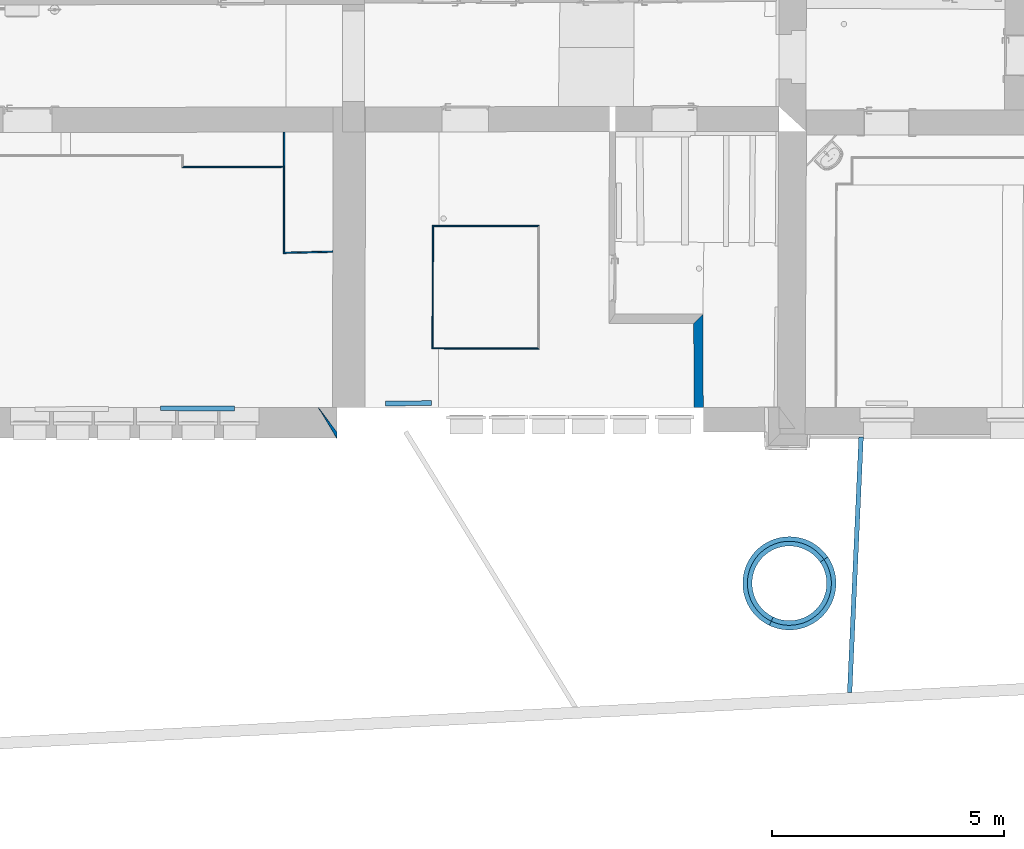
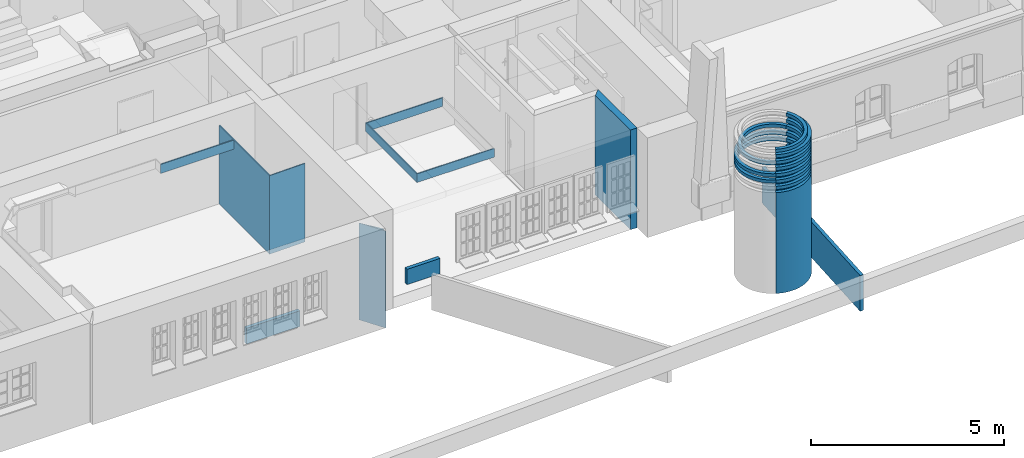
# One storey, part 37 of 196: 28 walls.
"""IFC2X3 building model written with IfcOpenShell, lengths in metres."""

import ifcopenshell
import ifcopenshell.guid

model = None  # the IFC model being written
_history = None  # IfcOwnerHistory: only IFC2X3 demands one
_inside = {}  # id of a spatial element -> (the spatial element, [elements in it])
_under = {}  # id of a project, library or spatial element -> (it, [spatial elements below it])
_declared = {}  # id of a project -> (the project, [libraries it declares])
_typed = {}  # id of a type object -> (the type object, [elements of that type])
_made_of = {}  # id of a material, layer set ... -> (it, [elements and type objects made of it])


def new_model(schema):
    """Start an empty IFC model of exactly this schema.

    Asked for "IFC4X3", IfcOpenShell would pick the latest addendum, in which some entities
    have other attributes; the version numbers below select the first issue.
    IFC2X3 requires an IfcOwnerHistory on every rooted entity: one is made here for all.
    """
    global model, _history
    if schema == "IFC4X3":
        model = ifcopenshell.file(schema_version=(4, 3, 0, 0))
    else:
        model = ifcopenshell.file(schema=schema)
    _inside.clear()
    _under.clear()
    _declared.clear()
    _typed.clear()
    _made_of.clear()
    _history = None
    if model.schema == "IFC2X3":
        org = make("IfcOrganization", Name="unknown")
        user = make(
            "IfcPersonAndOrganization",
            ThePerson=make("IfcPerson", FamilyName="unknown"),
            TheOrganization=org,
        )
        app = make(
            "IfcApplication",
            ApplicationDeveloper=org,
            Version="unknown",
            ApplicationFullName="unknown",
            ApplicationIdentifier="unknown",
        )
        _history = make(
            "IfcOwnerHistory",
            OwningUser=user,
            OwningApplication=app,
            ChangeAction="ADDED",
            CreationDate=0,
        )
    return model


def make(cls, **values):
    """One entity of the class cls with the attributes given. An attribute that is None is left unset."""
    return model.create_entity(
        cls, **{name: value for name, value in values.items() if value is not None}
    )


def entity(cls, *values):
    """Any entity or typed value of the class cls, its attributes in the order of the schema. None: left unset."""
    e = model.create_entity(cls)
    for i, value in enumerate(values):
        if value is not None:
            e[i] = value
    return e


def rooted(cls, **values):
    """An entity with a GlobalId (a new one), such as an element, a storey or a relation."""
    return make(cls, GlobalId=ifcopenshell.guid.new(), OwnerHistory=_history, **values)


def si_unit(unit_type, name, prefix=None):
    """IfcSIUnit, for example si_unit("LENGTHUNIT", "METRE", prefix="MILLI")."""
    return make("IfcSIUnit", UnitType=unit_type, Prefix=prefix, Name=name)


def converted_unit(unit_type, name, factor, base, dimensions=None, offset=None):
    """IfcConversionBasedUnit, such as the inch: factor (a typed value) times the base unit."""
    return make(
        "IfcConversionBasedUnit"
        if offset is None
        else "IfcConversionBasedUnitWithOffset",
        ConversionOffset=offset,
        Dimensions=None
        if dimensions is None
        else entity("IfcDimensionalExponents", *dimensions),
        UnitType=unit_type,
        Name=name,
        ConversionFactor=make(
            "IfcMeasureWithUnit", ValueComponent=factor, UnitComponent=base
        ),
    )


def derived_unit(unit_type, elements):
    """IfcDerivedUnit: a product of units, each with its exponent."""
    return make(
        "IfcDerivedUnit",
        Elements=[
            make("IfcDerivedUnitElement", Unit=unit, Exponent=power)
            for unit, power in elements
        ],
        UnitType=unit_type,
    )


def money_unit(currency):
    """IfcMonetaryUnit."""
    return make("IfcMonetaryUnit", Currency=currency)


def assignment(units):
    """IfcUnitAssignment: the units of a project."""
    return None if units is None else make("IfcUnitAssignment", Units=units)


def point(xyz):
    """IfcCartesianPoint."""
    return None if xyz is None else make("IfcCartesianPoint", Coordinates=xyz)


def direction(xyz):
    """IfcDirection."""
    return None if xyz is None else make("IfcDirection", DirectionRatios=xyz)


def frame(location, z_axis=None, x_axis=None):
    """IfcAxis2Placement3D, a coordinate frame: its origin and axes. An axis left out is left unset."""
    return make(
        "IfcAxis2Placement3D",
        Location=point(location),
        Axis=direction(z_axis),
        RefDirection=direction(x_axis),
    )


def frame_2d(location, x_axis=None):
    """IfcAxis2Placement2D, a coordinate frame in the plane: its origin and x axis."""
    return make(
        "IfcAxis2Placement2D", Location=point(location), RefDirection=direction(x_axis)
    )


def origin_with_axes():
    """The frame at (0, 0, 0) with the z axis (0, 0, 1) and the x axis (1, 0, 0) written out."""
    return frame((0.0, 0.0, 0.0), z_axis=(0.0, 0.0, 1.0), x_axis=(1.0, 0.0, 0.0))


def place(relative_to, where):
    """IfcLocalPlacement: puts the frame where relative to a parent placement (None: the world)."""
    return make(
        "IfcLocalPlacement", PlacementRelTo=relative_to, RelativePlacement=where
    )


def context(
    kind, dimensions, precision=None, world=None, true_north=None, identifier=None
):
    """IfcGeometricRepresentationContext, for example the 3D "Model" context."""
    return make(
        "IfcGeometricRepresentationContext",
        ContextIdentifier=identifier,
        ContextType=kind,
        CoordinateSpaceDimension=dimensions,
        Precision=precision,
        WorldCoordinateSystem=world,
        TrueNorth=true_north,
    )


def subcontext(parent, identifier, kind, view, scale=None):
    """IfcGeometricRepresentationSubContext, for example "Body" below "Model"."""
    return make(
        "IfcGeometricRepresentationSubContext",
        ContextIdentifier=identifier,
        ContextType=kind,
        ParentContext=parent,
        TargetScale=scale,
        TargetView=view,
    )


def project(units=None, contexts=None):
    """IfcProject with its units and contexts."""
    return rooted(
        "IfcProject",
        Name="project",
        RepresentationContexts=contexts,
        UnitsInContext=assignment(units),
    )


def spatial(cls, under=None, at=None, **own):
    """A site, building, storey or space (cls), placed at a placement, below another one or the project."""
    s = rooted(cls, ObjectPlacement=at, **own)
    if under is not None:
        _under.setdefault(under.id(), (under, []))[1].append(s)
    return s


def polyline(points):
    """IfcPolyline through the points."""
    return make("IfcPolyline", Points=[point(p) for p in points])


def circle_curve(where, radius):
    """IfcCircle in the frame where."""
    return make("IfcCircle", Position=where, Radius=radius)


def parameter(value):
    """IfcParameterValue: where a trimmed curve begins or ends, as a parameter of its basis curve."""
    return model.create_entity("IfcParameterValue", value)


def trimmed(basis, trim1, trim2, sense, master):
    """IfcTrimmedCurve: the piece of a basis curve between two trims."""
    return make(
        "IfcTrimmedCurve",
        BasisCurve=basis,
        Trim1=trim1,
        Trim2=trim2,
        SenseAgreement=sense,
        MasterRepresentation=master,
    )


def segment(curve, same_sense, transition):
    """IfcCompositeCurveSegment."""
    return make(
        "IfcCompositeCurveSegment",
        Transition=transition,
        SameSense=same_sense,
        ParentCurve=curve,
    )


def composite_curve(segments, self_intersect=None):
    """IfcCompositeCurve: segments joined end to end."""
    return make("IfcCompositeCurve", Segments=segments, SelfIntersect=self_intersect)


def outline(outer, holes=None, kind="AREA"):
    """IfcArbitraryClosedProfileDef: a profile drawn as a closed curve; with holes, ...WithVoids."""
    if holes is None:
        return make("IfcArbitraryClosedProfileDef", ProfileType=kind, OuterCurve=outer)
    return make(
        "IfcArbitraryProfileDefWithVoids",
        ProfileType=kind,
        OuterCurve=outer,
        InnerCurves=holes,
    )


def extrude(swept, where, along, depth):
    """IfcExtrudedAreaSolid: the profile swept, set in the frame where, extruded along a direction by depth."""
    return make(
        "IfcExtrudedAreaSolid",
        SweptArea=swept,
        Position=where,
        ExtrudedDirection=direction(along),
        Depth=depth,
    )


def shape(context_of_items, identifier, shape_type, items):
    """IfcShapeRepresentation: the items that make up one representation, for example the "Body"."""
    return make(
        "IfcShapeRepresentation",
        ContextOfItems=context_of_items,
        RepresentationIdentifier=identifier,
        RepresentationType=shape_type,
        Items=items,
    )


def material(Name=None, Category=None):
    """IfcMaterial."""
    return make("IfcMaterial", Name=Name, Category=Category)


def layer(
    of_material, thickness, ventilated=None, Name=None, Category=None, Priority=None
):
    """IfcMaterialLayer: one layer of a wall or slab, of a material (None: an air gap)."""
    return make(
        "IfcMaterialLayer",
        Material=of_material,
        LayerThickness=thickness,
        IsVentilated=ventilated,
        Name=Name,
        Category=Category,
        Priority=Priority,
    )


def layer_set(layers, Name=None):
    """IfcMaterialLayerSet."""
    return make("IfcMaterialLayerSet", MaterialLayers=layers, LayerSetName=Name)


def layer_usage(for_layer_set, set_direction, sense, offset, extent=None):
    """IfcMaterialLayerSetUsage: how a layer set lies in its element."""
    return make(
        "IfcMaterialLayerSetUsage",
        ForLayerSet=for_layer_set,
        LayerSetDirection=set_direction,
        DirectionSense=sense,
        OffsetFromReferenceLine=offset,
        ReferenceExtent=extent,
    )


def made_of(thing, what):
    """Note that an element or type object is made of a material, layer set ...; save() writes the relation."""
    if what is not None:
        _made_of.setdefault(what.id(), (what, []))[1].append(thing)
    return thing


def type_object(cls, material=None, **own):
    """A type object (cls), such as IfcWallType, which elements share."""
    return made_of(rooted(cls, **own), material)


def element(
    cls,
    number,
    at=None,
    inside=None,
    cuts=None,
    type_object=None,
    material=None,
    context=None,
    identifier="Body",
    shape_type=None,
    held_by="IfcProductDefinitionShape",
    body=None,
    shapes=None,
    **own,
):
    """One element of the class cls, such as IfcWall. Its Tag is "e" and its number.

    at: its placement. inside: the storey or other place that contains it. cuts: it is an
    opening in that element (IfcRelVoidsElement). A single representation is given by context,
    identifier, shape_type and body (its items); several are given by shapes. held_by: the class
    of the entity that holds the representations. save() writes the other relations.
    """
    e = rooted(cls, Tag="e%d" % number, ObjectPlacement=at, **own)
    if body is not None:
        shapes = [shape(context, identifier, shape_type, body)]
    if shapes is not None:
        e.Representation = make(held_by, Representations=shapes)
    if inside is not None:
        _inside.setdefault(inside.id(), (inside, []))[1].append(e)
    if cuts is not None:
        rooted(
            "IfcRelVoidsElement", RelatingBuildingElement=cuts, RelatedOpeningElement=e
        )
    if type_object is not None:
        _typed.setdefault(type_object.id(), (type_object, []))[1].append(e)
    return made_of(e, material)


def aggregate(whole, parts):
    """IfcRelAggregates: a whole, such as a stair, and the parts it consists of."""
    return rooted("IfcRelAggregates", RelatingObject=whole, RelatedObjects=parts)


def save(model, path):
    """Write the relations noted so far, then the file.

    IfcRelAggregates (storeys below a building ...), IfcRelContainedInSpatialStructure (elements
    in a storey), IfcRelDefinesByType, IfcRelAssociatesMaterial and IfcRelDeclares: one each for
    every whole, place, type object, material and project.
    """
    for whole, parts in _under.values():
        aggregate(whole, parts)
    for where, things in _inside.values():
        rooted(
            "IfcRelContainedInSpatialStructure",
            RelatedElements=things,
            RelatingStructure=where,
        )
    for kind, things in _typed.values():
        rooted("IfcRelDefinesByType", RelatedObjects=things, RelatingType=kind)
    for what, things in _made_of.values():
        rooted("IfcRelAssociatesMaterial", RelatedObjects=things, RelatingMaterial=what)
    for by, libraries in _declared.values():
        rooted("IfcRelDeclares", RelatingContext=by, RelatedDefinitions=libraries)
    model.write(path)


model = new_model("IFC2X3")

# Units and contexts
model_context = context("Model", 3, precision=1e-05, world=origin_with_axes(), true_north=direction((0.0, 1.0)))
body_context = subcontext(model_context, "Body", "Model", "MODEL_VIEW")
ifc_project = project(units=[si_unit("LENGTHUNIT", "METRE"), si_unit("AREAUNIT", "SQUARE_METRE"), si_unit("VOLUMEUNIT", "CUBIC_METRE"), converted_unit("PLANEANGLEUNIT", "DEGREE", entity("IfcPlaneAngleMeasure", 0.0174532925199), si_unit("PLANEANGLEUNIT", "RADIAN"), dimensions=[0, 0, 0, 0, 0, 0, 0]), money_unit("EUR"), converted_unit("TIMEUNIT", "Year", entity("IfcTimeMeasure", 31556926.0), si_unit("TIMEUNIT", "SECOND"), dimensions=[0, 0, 1, 0, 0, 0, 0]), si_unit("MASSUNIT", "GRAM", prefix="KILO"), si_unit("THERMODYNAMICTEMPERATUREUNIT", "DEGREE_CELSIUS"), si_unit("LUMINOUSINTENSITYUNIT", "LUMEN"), si_unit("ENERGYUNIT", "JOULE", prefix="MEGA"), derived_unit("THERMALCONDUCTANCEUNIT", [(si_unit("POWERUNIT", "WATT"), 1), (si_unit("LENGTHUNIT", "METRE"), -1), (si_unit("THERMODYNAMICTEMPERATUREUNIT", "KELVIN"), -1)]), derived_unit("SPECIFICHEATCAPACITYUNIT", [(si_unit("ENERGYUNIT", "JOULE"), 1), (si_unit("MASSUNIT", "GRAM", prefix="KILO"), -1), (si_unit("THERMODYNAMICTEMPERATUREUNIT", "KELVIN"), -1)]), derived_unit("MASSDENSITYUNIT", [(si_unit("MASSUNIT", "GRAM", prefix="KILO"), 1), (si_unit("VOLUMEUNIT", "CUBIC_METRE"), -1)])], contexts=[model_context])

# Site, building, storey
site_placement = place(None, origin_with_axes())
site = spatial("IfcSite", under=ifc_project, at=site_placement, Name="Gelände", CompositionType="ELEMENT")
building_placement = place(site_placement, origin_with_axes())
building = spatial("IfcBuilding", under=site, at=building_placement, Name="Gebäude", CompositionType="ELEMENT")
storey_placement = place(building_placement, frame((0.0, 0.0, -3.0), z_axis=(0.0, 0.0, 1.0), x_axis=(1.0, 0.0, 0.0)))
storey = spatial("IfcBuildingStorey", under=building, at=storey_placement, Name="KELLERGESCHOSS", CompositionType="ELEMENT", Elevation=-3.0)

# Walls
ifc_material_1 = material(Name="05_ALLGEMEIN - TRAGENDE BAUTEILE")
ifc_layer_1 = layer(ifc_material_1, 0.4, ventilated="UNKNOWN")
ifc_layer_set_1 = layer_set([ifc_layer_1], Name="05_ALLGEMEIN - TRAGENDE BAUTEILE 0.4")
ifc_layer_usage_1 = layer_usage(ifc_layer_set_1, "AXIS2", "NEGATIVE", 0.4)
wall_type_1 = type_object("IfcWallType", Name="05_ALLGEMEIN - TRAGENDE BAUTEILE 400", PredefinedType="ELEMENTEDWALL")
wall_1_placement = place(storey_placement, frame((12.4270314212, 9.80789701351, -0.36), z_axis=(0.0, 0.0, 1.0), x_axis=(0.000174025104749, 0.999999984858, 0.0)))
element("IfcWallStandardCase", 1, at=wall_1_placement, inside=storey, type_object=wall_type_1, material=ifc_layer_usage_1, Name="Wand-033", ObjectType="ELEMENTEDWALL", context=body_context, shape_type="SweptSolid", body=[
    extrude(outline(polyline([(0.0, 0.0), (0.130379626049, 0.0), (0.660052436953, 0.4), (0.66, 0.4), (0.0, 0.0)])), origin_with_axes(), (0.0, 0.0, 1.0), 3.065),
])
ifc_layer_2 = layer(ifc_material_1, 0.1, ventilated="UNKNOWN")
ifc_layer_set_2 = layer_set([ifc_layer_2], Name="05_ALLGEMEIN - TRAGENDE BAUTEILE 0.1")
ifc_layer_usage_2 = layer_usage(ifc_layer_set_2, "AXIS2", "NEGATIVE", 0.1)
wall_type_2 = type_object("IfcWallType", Name="05_ALLGEMEIN - TRAGENDE BAUTEILE 100", PredefinedType="ELEMENTEDWALL")
wall_2_placement = place(storey_placement, frame((21.7624079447, 5.76562607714, 3.19957866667), z_axis=(0.0, 0.0, 1.0), x_axis=(0.902607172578, -0.430465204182, 0.0)))
element("IfcWallStandardCase", 2, at=wall_2_placement, inside=storey, type_object=wall_type_2, material=ifc_layer_usage_2, Name="Wand-032", ObjectType="ELEMENTEDWALL", context=body_context, shape_type="SweptSolid", body=[
    extrude(outline(composite_curve([segment(trimmed(circle_curve(frame_2d((0.0, 1.00607070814), x_axis=(0.0, -1.0)), 1.00607070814), [point((0.0, 0.0)), parameter(0.0)], [point((0.503020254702, 1.87736221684)), parameter(150.000992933)], True, "CARTESIAN"), True, "CONTINUOUS"), segment(polyline([(0.503020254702, 1.87736221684), (0.453021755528, 1.79075880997)]), True, "CONTINUOUS"), segment(trimmed(circle_curve(frame_2d((0.0, 1.00607070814), x_axis=(0.0, -1.0)), 0.906070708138), [point((0.453021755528, 1.79075880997)), parameter(150.000992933)], [point((0.0, 0.1)), parameter(0.0)], False, "CARTESIAN"), True, "CONTINUOUS"), segment(polyline([(0.0, 0.1), (0.0, 0.0)]), True, "CONTINUOUS")], self_intersect=False)), origin_with_axes(), (0.0, 0.0, 1.0), 0.1),
])
ifc_layer_usage_3 = layer_usage(ifc_layer_set_2, "AXIS2", "NEGATIVE", 0.1)
wall_3_placement = place(storey_placement, frame((21.7624079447, 5.76562607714, -0.0866233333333), z_axis=(0.0, 0.0, 1.0), x_axis=(0.902607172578, -0.430465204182, 0.0)))
element("IfcWallStandardCase", 3, at=wall_3_placement, inside=storey, type_object=wall_type_2, material=ifc_layer_usage_3, Name="Wand-032", ObjectType="ELEMENTEDWALL", context=body_context, shape_type="SweptSolid", body=[
    extrude(outline(composite_curve([segment(trimmed(circle_curve(frame_2d((0.0, 1.00607070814), x_axis=(0.0, -1.0)), 1.00607070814), [point((0.0, 0.0)), parameter(0.0)], [point((0.503020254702, 1.87736221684)), parameter(150.000992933)], True, "CARTESIAN"), True, "CONTINUOUS"), segment(polyline([(0.503020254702, 1.87736221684), (0.453021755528, 1.79075880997)]), True, "CONTINUOUS"), segment(trimmed(circle_curve(frame_2d((0.0, 1.00607070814), x_axis=(0.0, -1.0)), 0.906070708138), [point((0.453021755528, 1.79075880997)), parameter(150.000992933)], [point((0.0, 0.1)), parameter(0.0)], False, "CARTESIAN"), True, "CONTINUOUS"), segment(polyline([(0.0, 0.1), (0.0, 0.0)]), True, "CONTINUOUS")], self_intersect=False)), origin_with_axes(), (0.0, 0.0, 1.0), 3.186202),
])
ifc_layer_usage_4 = layer_usage(ifc_layer_set_2, "AXIS2", "NEGATIVE", 0.1)
wall_4_placement = place(storey_placement, frame((21.7624079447, 5.76562607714, 4.19957866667), z_axis=(0.0, 0.0, 1.0), x_axis=(0.902607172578, -0.430465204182, 0.0)))
element("IfcWallStandardCase", 4, at=wall_4_placement, inside=storey, type_object=wall_type_2, material=ifc_layer_usage_4, Name="Wand-032", ObjectType="ELEMENTEDWALL", context=body_context, shape_type="SweptSolid", body=[
    extrude(outline(composite_curve([segment(trimmed(circle_curve(frame_2d((0.0, 1.00607070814), x_axis=(0.0, -1.0)), 1.00607070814), [point((0.0, 0.0)), parameter(0.0)], [point((0.503020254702, 1.87736221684)), parameter(150.000992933)], True, "CARTESIAN"), True, "CONTINUOUS"), segment(polyline([(0.503020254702, 1.87736221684), (0.453021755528, 1.79075880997)]), True, "CONTINUOUS"), segment(trimmed(circle_curve(frame_2d((0.0, 1.00607070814), x_axis=(0.0, -1.0)), 0.906070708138), [point((0.453021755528, 1.79075880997)), parameter(150.000992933)], [point((0.0, 0.1)), parameter(0.0)], False, "CARTESIAN"), True, "CONTINUOUS"), segment(polyline([(0.0, 0.1), (0.0, 0.0)]), True, "CONTINUOUS")], self_intersect=False)), origin_with_axes(), (0.0, 0.0, 1.0), 0.1),
])
ifc_layer_usage_5 = layer_usage(ifc_layer_set_2, "AXIS2", "NEGATIVE", 0.1)
wall_5_placement = place(storey_placement, frame((21.7624079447, 5.76562607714, 3.59957866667), z_axis=(0.0, 0.0, 1.0), x_axis=(0.902607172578, -0.430465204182, 0.0)))
element("IfcWallStandardCase", 5, at=wall_5_placement, inside=storey, type_object=wall_type_2, material=ifc_layer_usage_5, Name="Wand-032", ObjectType="ELEMENTEDWALL", context=body_context, shape_type="SweptSolid", body=[
    extrude(outline(composite_curve([segment(trimmed(circle_curve(frame_2d((0.0, 1.00607070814), x_axis=(0.0, -1.0)), 1.00607070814), [point((0.0, 0.0)), parameter(0.0)], [point((0.503020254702, 1.87736221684)), parameter(150.000992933)], True, "CARTESIAN"), True, "CONTINUOUS"), segment(polyline([(0.503020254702, 1.87736221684), (0.453021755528, 1.79075880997)]), True, "CONTINUOUS"), segment(trimmed(circle_curve(frame_2d((0.0, 1.00607070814), x_axis=(0.0, -1.0)), 0.906070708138), [point((0.453021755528, 1.79075880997)), parameter(150.000992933)], [point((0.0, 0.1)), parameter(0.0)], False, "CARTESIAN"), True, "CONTINUOUS"), segment(polyline([(0.0, 0.1), (0.0, 0.0)]), True, "CONTINUOUS")], self_intersect=False)), origin_with_axes(), (0.0, 0.0, 1.0), 0.1),
])
ifc_layer_usage_6 = layer_usage(ifc_layer_set_2, "AXIS2", "NEGATIVE", 0.1)
wall_6_placement = place(storey_placement, frame((21.7624079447, 5.76562607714, 3.39957866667), z_axis=(0.0, 0.0, 1.0), x_axis=(0.902607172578, -0.430465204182, 0.0)))
element("IfcWallStandardCase", 6, at=wall_6_placement, inside=storey, type_object=wall_type_2, material=ifc_layer_usage_6, Name="Wand-032", ObjectType="ELEMENTEDWALL", context=body_context, shape_type="SweptSolid", body=[
    extrude(outline(composite_curve([segment(trimmed(circle_curve(frame_2d((0.0, 1.00607070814), x_axis=(0.0, -1.0)), 1.00607070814), [point((0.0, 0.0)), parameter(0.0)], [point((0.503020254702, 1.87736221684)), parameter(150.000992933)], True, "CARTESIAN"), True, "CONTINUOUS"), segment(polyline([(0.503020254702, 1.87736221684), (0.453021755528, 1.79075880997)]), True, "CONTINUOUS"), segment(trimmed(circle_curve(frame_2d((0.0, 1.00607070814), x_axis=(0.0, -1.0)), 0.906070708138), [point((0.453021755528, 1.79075880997)), parameter(150.000992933)], [point((0.0, 0.1)), parameter(0.0)], False, "CARTESIAN"), True, "CONTINUOUS"), segment(polyline([(0.0, 0.1), (0.0, 0.0)]), True, "CONTINUOUS")], self_intersect=False)), origin_with_axes(), (0.0, 0.0, 1.0), 0.1),
])
ifc_layer_usage_7 = layer_usage(ifc_layer_set_2, "AXIS2", "NEGATIVE", 0.1)
wall_7_placement = place(storey_placement, frame((21.7624079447, 5.76562607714, 3.79957866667), z_axis=(0.0, 0.0, 1.0), x_axis=(0.902607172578, -0.430465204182, 0.0)))
element("IfcWallStandardCase", 7, at=wall_7_placement, inside=storey, type_object=wall_type_2, material=ifc_layer_usage_7, Name="Wand-032", ObjectType="ELEMENTEDWALL", context=body_context, shape_type="SweptSolid", body=[
    extrude(outline(composite_curve([segment(trimmed(circle_curve(frame_2d((0.0, 1.00607070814), x_axis=(0.0, -1.0)), 1.00607070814), [point((0.0, 0.0)), parameter(0.0)], [point((0.503020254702, 1.87736221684)), parameter(150.000992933)], True, "CARTESIAN"), True, "CONTINUOUS"), segment(polyline([(0.503020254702, 1.87736221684), (0.453021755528, 1.79075880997)]), True, "CONTINUOUS"), segment(trimmed(circle_curve(frame_2d((0.0, 1.00607070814), x_axis=(0.0, -1.0)), 0.906070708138), [point((0.453021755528, 1.79075880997)), parameter(150.000992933)], [point((0.0, 0.1)), parameter(0.0)], False, "CARTESIAN"), True, "CONTINUOUS"), segment(polyline([(0.0, 0.1), (0.0, 0.0)]), True, "CONTINUOUS")], self_intersect=False)), origin_with_axes(), (0.0, 0.0, 1.0), 0.1),
])
ifc_layer_usage_8 = layer_usage(ifc_layer_set_2, "AXIS2", "NEGATIVE", 0.1)
wall_8_placement = place(storey_placement, frame((23.0245767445, 7.24361396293, 3.39957866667), z_axis=(0.0, 0.0, 1.0), x_axis=(-0.566462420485, 0.824087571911, 0.0)))
element("IfcWallStandardCase", 8, at=wall_8_placement, inside=storey, type_object=wall_type_2, material=ifc_layer_usage_8, Name="Wand-032", ObjectType="ELEMENTEDWALL", context=body_context, shape_type="SweptSolid", body=[
    extrude(outline(composite_curve([segment(trimmed(circle_curve(frame_2d((0.0, 1.00607070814), x_axis=(0.0, -1.0)), 1.00607070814), [point((0.0, 0.0)), parameter(0.0)], [point((-0.503020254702, 1.87736221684)), parameter(209.999007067)], True, "CARTESIAN"), True, "CONTINUOUS"), segment(polyline([(-0.503020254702, 1.87736221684), (-0.453021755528, 1.79075880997)]), True, "CONTINUOUS"), segment(trimmed(circle_curve(frame_2d((0.0, 1.00607070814), x_axis=(0.0, -1.0)), 0.906070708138), [point((-0.453021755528, 1.79075880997)), parameter(209.999007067)], [point((0.0, 0.1)), parameter(0.0)], False, "CARTESIAN"), True, "CONTINUOUS"), segment(polyline([(0.0, 0.1), (0.0, 0.0)]), True, "CONTINUOUS")], self_intersect=False)), origin_with_axes(), (0.0, 0.0, 1.0), 0.1),
])
ifc_layer_usage_9 = layer_usage(ifc_layer_set_2, "AXIS2", "NEGATIVE", 0.1)
wall_9_placement = place(storey_placement, frame((23.0245767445, 7.24361396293, 3.59957866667), z_axis=(0.0, 0.0, 1.0), x_axis=(-0.566462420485, 0.824087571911, 0.0)))
element("IfcWallStandardCase", 9, at=wall_9_placement, inside=storey, type_object=wall_type_2, material=ifc_layer_usage_9, Name="Wand-032", ObjectType="ELEMENTEDWALL", context=body_context, shape_type="SweptSolid", body=[
    extrude(outline(composite_curve([segment(trimmed(circle_curve(frame_2d((0.0, 1.00607070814), x_axis=(0.0, -1.0)), 1.00607070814), [point((0.0, 0.0)), parameter(0.0)], [point((-0.503020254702, 1.87736221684)), parameter(209.999007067)], True, "CARTESIAN"), True, "CONTINUOUS"), segment(polyline([(-0.503020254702, 1.87736221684), (-0.453021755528, 1.79075880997)]), True, "CONTINUOUS"), segment(trimmed(circle_curve(frame_2d((0.0, 1.00607070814), x_axis=(0.0, -1.0)), 0.906070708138), [point((-0.453021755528, 1.79075880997)), parameter(209.999007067)], [point((0.0, 0.1)), parameter(0.0)], False, "CARTESIAN"), True, "CONTINUOUS"), segment(polyline([(0.0, 0.1), (0.0, 0.0)]), True, "CONTINUOUS")], self_intersect=False)), origin_with_axes(), (0.0, 0.0, 1.0), 0.1),
])
ifc_layer_usage_10 = layer_usage(ifc_layer_set_2, "AXIS2", "NEGATIVE", 0.1)
wall_10_placement = place(storey_placement, frame((21.7624079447, 5.76562607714, 3.99957866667), z_axis=(0.0, 0.0, 1.0), x_axis=(0.902607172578, -0.430465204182, 0.0)))
element("IfcWallStandardCase", 10, at=wall_10_placement, inside=storey, type_object=wall_type_2, material=ifc_layer_usage_10, Name="Wand-032", ObjectType="ELEMENTEDWALL", context=body_context, shape_type="SweptSolid", body=[
    extrude(outline(composite_curve([segment(trimmed(circle_curve(frame_2d((0.0, 1.00607070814), x_axis=(0.0, -1.0)), 1.00607070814), [point((0.0, 0.0)), parameter(0.0)], [point((0.503020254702, 1.87736221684)), parameter(150.000992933)], True, "CARTESIAN"), True, "CONTINUOUS"), segment(polyline([(0.503020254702, 1.87736221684), (0.453021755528, 1.79075880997)]), True, "CONTINUOUS"), segment(trimmed(circle_curve(frame_2d((0.0, 1.00607070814), x_axis=(0.0, -1.0)), 0.906070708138), [point((0.453021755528, 1.79075880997)), parameter(150.000992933)], [point((0.0, 0.1)), parameter(0.0)], False, "CARTESIAN"), True, "CONTINUOUS"), segment(polyline([(0.0, 0.1), (0.0, 0.0)]), True, "CONTINUOUS")], self_intersect=False)), origin_with_axes(), (0.0, 0.0, 1.0), 0.1),
])
ifc_layer_usage_11 = layer_usage(ifc_layer_set_2, "AXIS2", "NEGATIVE", 0.1)
wall_11_placement = place(storey_placement, frame((23.5468201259, 4.31946045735, -0.36), z_axis=(0.0, 0.0, 1.0), x_axis=(0.0447773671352, 0.998996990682, 0.0)))
element("IfcWallStandardCase", 11, at=wall_11_placement, inside=storey, type_object=wall_type_2, material=ifc_layer_usage_11, Name="Wand-038", ObjectType="ELEMENTEDWALL", context=body_context, shape_type="SweptSolid", body=[
    extrude(outline(polyline([(0.0, 0.0), (5.51624185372, 0.0), (5.51624185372, 0.1), (-0.00977962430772, 0.1), (0.0, 0.0)])), origin_with_axes(), (0.0, 0.0, 1.0), 1.126109),
])
ifc_material_2 = material(Name="43_Gipskarton")
ifc_layer_3 = layer(ifc_material_2, 0.03, ventilated="UNKNOWN")
ifc_layer_set_3 = layer_set([ifc_layer_3], Name="43_Gipskarton 0.03")
ifc_layer_usage_12 = layer_usage(ifc_layer_set_3, "AXIS2", "NEGATIVE", 0.03)
wall_type_3 = type_object("IfcWallType", Name="43_Gipskarton 30", PredefinedType="ELEMENTEDWALL")
wall_12_placement = place(storey_placement, frame((11.2715041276, 13.7908857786, -0.04), z_axis=(0.0, 0.0, 1.0), x_axis=(0.99970374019, 0.0243399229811, 0.0)))
element("IfcWallStandardCase", 12, at=wall_12_placement, inside=storey, type_object=wall_type_3, material=ifc_layer_usage_12, Name="Wand-032", ObjectType="ELEMENTEDWALL", context=body_context, shape_type="SweptSolid", body=[
    extrude(outline(polyline([(0.0, 0.0), (1.0698679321, 0.0), (1.07067508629, 0.03), (0.0307768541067, 0.03), (0.0, 0.0)])), origin_with_axes(), (0.0, 0.0, 1.0), 2.48),
])
ifc_layer_usage_13 = layer_usage(ifc_layer_set_3, "AXIS2", "NEGATIVE", 0.03)
wall_13_placement = place(storey_placement, frame((11.2753628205, 16.952647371, -0.04), z_axis=(0.0, 0.0, 1.0), x_axis=(-0.0012204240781, -0.999999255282, 0.0)))
element("IfcWallStandardCase", 13, at=wall_13_placement, inside=storey, type_object=wall_type_3, material=ifc_layer_usage_13, Name="Wand-032", ObjectType="ELEMENTEDWALL", context=body_context, shape_type="SweptSolid", body=[
    extrude(outline(polyline([(0.540002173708, 0.0), (3.16176394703, 0.0), (3.13098709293, 0.03), (0.539917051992, 0.03), (0.540002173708, 0.0)])), origin_with_axes(), (0.0, 0.0, 1.0), 2.48),
])
ifc_layer_usage_14 = layer_usage(ifc_layer_set_3, "AXIS2", "NEGATIVE", 0.0)
wall_14_placement = place(storey_placement, frame((11.273771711, 15.6489134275, 2.15545783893), z_axis=(0.0, 0.0, 1.0), x_axis=(-0.999996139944, -0.00277850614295, 0.0)))
element("IfcWallStandardCase", 14, at=wall_14_placement, inside=storey, type_object=wall_type_3, material=ifc_layer_usage_14, Name="Wand-065", ObjectType="ELEMENTEDWALL", context=body_context, shape_type="SweptSolid", body=[
    extrude(outline(polyline([(-0.000119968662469, -0.03), (2.16363057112, -0.03), (2.19380541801, 0.0), (0.0, 0.0), (-0.000119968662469, -0.03)])), origin_with_axes(), (0.0, 0.0, 1.0), 0.284542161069),
])
ifc_layer_usage_15 = layer_usage(ifc_layer_set_3, "AXIS2", "NEGATIVE", 0.03)
wall_15_placement = place(storey_placement, frame((14.4860190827, 14.4047333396, 2.35), z_axis=(0.0, 0.0, 1.0), x_axis=(-0.00204478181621, -0.999997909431, 0.0)))
element("IfcWallStandardCase", 15, at=wall_15_placement, inside=storey, type_object=wall_type_3, material=ifc_layer_usage_15, Name="Wand-075", ObjectType="ELEMENTEDWALL", context=body_context, shape_type="SweptSolid", body=[
    extrude(outline(polyline([(0.0, 0.0), (2.67262783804, 0.0), (2.64265108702, 0.03), (0.0299319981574, 0.03), (0.0, 0.0)])), origin_with_axes(), (0.0, 0.0, 1.0), 0.27),
])
ifc_layer_usage_16 = layer_usage(ifc_layer_set_3, "AXIS2", "NEGATIVE", 0.03)
wall_16_placement = place(storey_placement, frame((14.4805541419, 11.7321110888, 2.35), z_axis=(0.0, 0.0, 1.0), x_axis=(0.999996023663, -0.00282004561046, 0.0)))
element("IfcWallStandardCase", 16, at=wall_16_placement, inside=storey, type_object=wall_type_3, material=ifc_layer_usage_16, Name="Wand-076", ObjectType="ELEMENTEDWALL", context=body_context, shape_type="SweptSolid", body=[
    extrude(outline(polyline([(0.0, 0.0), (2.31661338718, 0.0), (2.28654252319, 0.03), (0.0299767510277, 0.03), (0.0, 0.0)])), origin_with_axes(), (0.0, 0.0, 1.0), 0.27),
])
ifc_layer_usage_17 = layer_usage(ifc_layer_set_3, "AXIS2", "NEGATIVE", 0.03)
wall_17_placement = place(storey_placement, frame((16.7983928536, 14.4052525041, 2.35), z_axis=(0.0, 0.0, 1.0), x_axis=(-0.999999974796, -0.000224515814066, 0.0)))
element("IfcWallStandardCase", 17, at=wall_17_placement, inside=storey, type_object=wall_type_3, material=ifc_layer_usage_17, Name="Wand-078", ObjectType="ELEMENTEDWALL", context=body_context, shape_type="SweptSolid", body=[
    extrude(outline(polyline([(0.0, 0.0), (2.31237382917, 0.0), (2.28244183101, 0.03), (0.0300205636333, 0.03), (0.0, 0.0)])), origin_with_axes(), (0.0, 0.0, 1.0), 0.27),
])
ifc_material_3 = material(Name="01_ALLGEMEIN - BAUTEIL")
ifc_layer_4 = layer(ifc_material_3, 0.105, ventilated="UNKNOWN")
ifc_layer_set_4 = layer_set([ifc_layer_4], Name="01_ALLGEMEIN - BAUTEIL 0.105")
ifc_layer_usage_18 = layer_usage(ifc_layer_set_4, "AXIS2", "NEGATIVE", 0.105)
wall_type_4 = type_object("IfcWallType", Name="01_ALLGEMEIN - BAUTEIL 105", PredefinedType="ELEMENTEDWALL")
wall_18_placement = place(storey_placement, frame((14.4741199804, 10.6162525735, 0.217027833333), z_axis=(0.0, 0.0, 1.0), x_axis=(-0.999965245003, -0.00833719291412, 0.0)))
element("IfcWallStandardCase", 18, at=wall_18_placement, inside=storey, type_object=wall_type_4, material=ifc_layer_usage_18, Name="Wand-036", ObjectType="ELEMENTEDWALL", context=body_context, shape_type="SweptSolid", body=[
    extrude(outline(polyline([(0.0, 0.0), (0.99680518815, 0.0), (0.99680518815, 0.105), (0.0, 0.105), (0.0, 0.0)])), origin_with_axes(), (0.0, 0.0, 1.0), 0.485031),
])
ifc_layer_usage_19 = layer_usage(ifc_layer_set_4, "AXIS2", "NEGATIVE", 0.0)
wall_19_placement = place(storey_placement, frame((8.62376492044, 10.504163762, 0.104421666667), z_axis=(0.0, 0.0, 1.0), x_axis=(0.999998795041, -0.00155239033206, 0.0)))
element("IfcWallStandardCase", 19, at=wall_19_placement, inside=storey, type_object=wall_type_4, material=ifc_layer_usage_19, Name="Wand-036", ObjectType="ELEMENTEDWALL", context=body_context, shape_type="SweptSolid", body=[
    extrude(outline(polyline([(0.0, -0.105), (1.59594467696, -0.105), (1.59594467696, 0.0), (0.0, 0.0), (0.0, -0.105)])), origin_with_axes(), (0.0, 0.0, 1.0), 0.498833),
])
ifc_layer_5 = layer(ifc_material_3, 0.1, ventilated="UNKNOWN")
ifc_layer_set_5 = layer_set([ifc_layer_5], Name="01_ALLGEMEIN - BAUTEIL 0.1")
ifc_layer_usage_20 = layer_usage(ifc_layer_set_5, "AXIS2", "NEGATIVE", 0.1)
wall_type_5 = type_object("IfcWallType", Name="01_ALLGEMEIN - BAUTEIL 100", PredefinedType="ELEMENTEDWALL")
wall_20_placement = place(storey_placement, frame((21.8054544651, 5.85588679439, 3.89957866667), z_axis=(0.0, 0.0, 1.0), x_axis=(0.902607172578, -0.430465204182, 0.0)))
element("IfcWallStandardCase", 20, at=wall_20_placement, inside=storey, type_object=wall_type_5, material=ifc_layer_usage_20, Name="Wand-032", ObjectType="ELEMENTEDWALL", context=body_context, shape_type="SweptSolid", body=[
    extrude(outline(composite_curve([segment(trimmed(circle_curve(frame_2d((0.0, 0.906070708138), x_axis=(0.0, -1.0)), 0.906070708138), [point((0.0, 0.0)), parameter(0.0)], [point((0.453021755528, 1.69075880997)), parameter(150.000992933)], True, "CARTESIAN"), True, "CONTINUOUS"), segment(polyline([(0.453021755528, 1.69075880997), (0.403023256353, 1.60415540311)]), True, "CONTINUOUS"), segment(trimmed(circle_curve(frame_2d((0.0, 0.906070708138), x_axis=(0.0, -1.0)), 0.806070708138), [point((0.403023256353, 1.60415540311)), parameter(150.000992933)], [point((0.0, 0.1)), parameter(0.0)], False, "CARTESIAN"), True, "CONTINUOUS"), segment(polyline([(0.0, 0.1), (0.0, 0.0)]), True, "CONTINUOUS")], self_intersect=False)), origin_with_axes(), (0.0, 0.0, 1.0), 0.1),
])
ifc_layer_usage_21 = layer_usage(ifc_layer_set_5, "AXIS2", "NEGATIVE", 0.1)
wall_21_placement = place(storey_placement, frame((21.8054544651, 5.85588679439, 4.29957866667), z_axis=(0.0, 0.0, 1.0), x_axis=(0.902607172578, -0.430465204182, 0.0)))
element("IfcWallStandardCase", 21, at=wall_21_placement, inside=storey, type_object=wall_type_5, material=ifc_layer_usage_21, Name="Wand-032", ObjectType="ELEMENTEDWALL", context=body_context, shape_type="SweptSolid", body=[
    extrude(outline(composite_curve([segment(trimmed(circle_curve(frame_2d((0.0, 0.906070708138), x_axis=(0.0, -1.0)), 0.906070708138), [point((0.0, 0.0)), parameter(0.0)], [point((0.453021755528, 1.69075880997)), parameter(150.000992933)], True, "CARTESIAN"), True, "CONTINUOUS"), segment(polyline([(0.453021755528, 1.69075880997), (0.403023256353, 1.60415540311)]), True, "CONTINUOUS"), segment(trimmed(circle_curve(frame_2d((0.0, 0.906070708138), x_axis=(0.0, -1.0)), 0.806070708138), [point((0.403023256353, 1.60415540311)), parameter(150.000992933)], [point((0.0, 0.1)), parameter(0.0)], False, "CARTESIAN"), True, "CONTINUOUS"), segment(polyline([(0.0, 0.1), (0.0, 0.0)]), True, "CONTINUOUS")], self_intersect=False)), origin_with_axes(), (0.0, 0.0, 1.0), 0.1),
])
ifc_layer_usage_22 = layer_usage(ifc_layer_set_5, "AXIS2", "NEGATIVE", 0.1)
wall_22_placement = place(storey_placement, frame((21.8054544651, 5.85588679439, 3.49957866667), z_axis=(0.0, 0.0, 1.0), x_axis=(0.902607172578, -0.430465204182, 0.0)))
element("IfcWallStandardCase", 22, at=wall_22_placement, inside=storey, type_object=wall_type_5, material=ifc_layer_usage_22, Name="Wand-032", ObjectType="ELEMENTEDWALL", context=body_context, shape_type="SweptSolid", body=[
    extrude(outline(composite_curve([segment(trimmed(circle_curve(frame_2d((0.0, 0.906070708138), x_axis=(0.0, -1.0)), 0.906070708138), [point((0.0, 0.0)), parameter(0.0)], [point((0.453021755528, 1.69075880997)), parameter(150.000992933)], True, "CARTESIAN"), True, "CONTINUOUS"), segment(polyline([(0.453021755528, 1.69075880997), (0.403023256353, 1.60415540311)]), True, "CONTINUOUS"), segment(trimmed(circle_curve(frame_2d((0.0, 0.906070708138), x_axis=(0.0, -1.0)), 0.806070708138), [point((0.403023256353, 1.60415540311)), parameter(150.000992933)], [point((0.0, 0.1)), parameter(0.0)], False, "CARTESIAN"), True, "CONTINUOUS"), segment(polyline([(0.0, 0.1), (0.0, 0.0)]), True, "CONTINUOUS")], self_intersect=False)), origin_with_axes(), (0.0, 0.0, 1.0), 0.1),
])
ifc_layer_usage_23 = layer_usage(ifc_layer_set_5, "AXIS2", "NEGATIVE", 0.1)
wall_23_placement = place(storey_placement, frame((21.8054544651, 5.85588679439, 3.29957866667), z_axis=(0.0, 0.0, 1.0), x_axis=(0.902607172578, -0.430465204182, 0.0)))
element("IfcWallStandardCase", 23, at=wall_23_placement, inside=storey, type_object=wall_type_5, material=ifc_layer_usage_23, Name="Wand-032", ObjectType="ELEMENTEDWALL", context=body_context, shape_type="SweptSolid", body=[
    extrude(outline(composite_curve([segment(trimmed(circle_curve(frame_2d((0.0, 0.906070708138), x_axis=(0.0, -1.0)), 0.906070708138), [point((0.0, 0.0)), parameter(0.0)], [point((0.453021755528, 1.69075880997)), parameter(150.000992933)], True, "CARTESIAN"), True, "CONTINUOUS"), segment(polyline([(0.453021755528, 1.69075880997), (0.403023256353, 1.60415540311)]), True, "CONTINUOUS"), segment(trimmed(circle_curve(frame_2d((0.0, 0.906070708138), x_axis=(0.0, -1.0)), 0.806070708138), [point((0.403023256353, 1.60415540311)), parameter(150.000992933)], [point((0.0, 0.1)), parameter(0.0)], False, "CARTESIAN"), True, "CONTINUOUS"), segment(polyline([(0.0, 0.1), (0.0, 0.0)]), True, "CONTINUOUS")], self_intersect=False)), origin_with_axes(), (0.0, 0.0, 1.0), 0.1),
])
ifc_layer_usage_24 = layer_usage(ifc_layer_set_5, "AXIS2", "NEGATIVE", 0.1)
wall_24_placement = place(storey_placement, frame((21.8054544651, 5.85588679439, 3.69957866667), z_axis=(0.0, 0.0, 1.0), x_axis=(0.902607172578, -0.430465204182, 0.0)))
element("IfcWallStandardCase", 24, at=wall_24_placement, inside=storey, type_object=wall_type_5, material=ifc_layer_usage_24, Name="Wand-032", ObjectType="ELEMENTEDWALL", context=body_context, shape_type="SweptSolid", body=[
    extrude(outline(composite_curve([segment(trimmed(circle_curve(frame_2d((0.0, 0.906070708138), x_axis=(0.0, -1.0)), 0.906070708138), [point((0.0, 0.0)), parameter(0.0)], [point((0.453021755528, 1.69075880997)), parameter(150.000992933)], True, "CARTESIAN"), True, "CONTINUOUS"), segment(polyline([(0.453021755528, 1.69075880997), (0.403023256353, 1.60415540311)]), True, "CONTINUOUS"), segment(trimmed(circle_curve(frame_2d((0.0, 0.906070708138), x_axis=(0.0, -1.0)), 0.806070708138), [point((0.403023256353, 1.60415540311)), parameter(150.000992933)], [point((0.0, 0.1)), parameter(0.0)], False, "CARTESIAN"), True, "CONTINUOUS"), segment(polyline([(0.0, 0.1), (0.0, 0.0)]), True, "CONTINUOUS")], self_intersect=False)), origin_with_axes(), (0.0, 0.0, 1.0), 0.1),
])
ifc_layer_usage_25 = layer_usage(ifc_layer_set_5, "AXIS2", "NEGATIVE", 0.1)
wall_25_placement = place(storey_placement, frame((21.8054544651, 5.85588679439, 3.09957866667), z_axis=(0.0, 0.0, 1.0), x_axis=(0.902607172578, -0.430465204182, 0.0)))
element("IfcWallStandardCase", 25, at=wall_25_placement, inside=storey, type_object=wall_type_5, material=ifc_layer_usage_25, Name="Wand-032", ObjectType="ELEMENTEDWALL", context=body_context, shape_type="SweptSolid", body=[
    extrude(outline(composite_curve([segment(trimmed(circle_curve(frame_2d((0.0, 0.906070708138), x_axis=(0.0, -1.0)), 0.906070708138), [point((0.0, 0.0)), parameter(0.0)], [point((0.453021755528, 1.69075880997)), parameter(150.000992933)], True, "CARTESIAN"), True, "CONTINUOUS"), segment(polyline([(0.453021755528, 1.69075880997), (0.403023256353, 1.60415540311)]), True, "CONTINUOUS"), segment(trimmed(circle_curve(frame_2d((0.0, 0.906070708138), x_axis=(0.0, -1.0)), 0.806070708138), [point((0.403023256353, 1.60415540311)), parameter(150.000992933)], [point((0.0, 0.1)), parameter(0.0)], False, "CARTESIAN"), True, "CONTINUOUS"), segment(polyline([(0.0, 0.1), (0.0, 0.0)]), True, "CONTINUOUS")], self_intersect=False)), origin_with_axes(), (0.0, 0.0, 1.0), 0.1),
])
ifc_layer_usage_26 = layer_usage(ifc_layer_set_5, "AXIS2", "NEGATIVE", 0.1)
wall_26_placement = place(storey_placement, frame((21.8054544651, 5.85588679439, 4.09957866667), z_axis=(0.0, 0.0, 1.0), x_axis=(0.902607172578, -0.430465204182, 0.0)))
element("IfcWallStandardCase", 26, at=wall_26_placement, inside=storey, type_object=wall_type_5, material=ifc_layer_usage_26, Name="Wand-032", ObjectType="ELEMENTEDWALL", context=body_context, shape_type="SweptSolid", body=[
    extrude(outline(composite_curve([segment(trimmed(circle_curve(frame_2d((0.0, 0.906070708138), x_axis=(0.0, -1.0)), 0.906070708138), [point((0.0, 0.0)), parameter(0.0)], [point((0.453021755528, 1.69075880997)), parameter(150.000992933)], True, "CARTESIAN"), True, "CONTINUOUS"), segment(polyline([(0.453021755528, 1.69075880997), (0.403023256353, 1.60415540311)]), True, "CONTINUOUS"), segment(trimmed(circle_curve(frame_2d((0.0, 0.906070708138), x_axis=(0.0, -1.0)), 0.806070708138), [point((0.403023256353, 1.60415540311)), parameter(150.000992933)], [point((0.0, 0.1)), parameter(0.0)], False, "CARTESIAN"), True, "CONTINUOUS"), segment(polyline([(0.0, 0.1), (0.0, 0.0)]), True, "CONTINUOUS")], self_intersect=False)), origin_with_axes(), (0.0, 0.0, 1.0), 0.1),
])
ifc_layer_usage_27 = layer_usage(ifc_layer_set_5, "AXIS2", "NEGATIVE", 0.1)
wall_27_placement = place(storey_placement, frame((22.9421679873, 7.18696772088, 3.89957866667), z_axis=(0.0, 0.0, 1.0), x_axis=(-0.566462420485, 0.824087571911, 0.0)))
element("IfcWallStandardCase", 27, at=wall_27_placement, inside=storey, type_object=wall_type_5, material=ifc_layer_usage_27, Name="Wand-032", ObjectType="ELEMENTEDWALL", context=body_context, shape_type="SweptSolid", body=[
    extrude(outline(composite_curve([segment(trimmed(circle_curve(frame_2d((0.0, 0.906070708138), x_axis=(0.0, -1.0)), 0.906070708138), [point((0.0, 0.0)), parameter(0.0)], [point((-0.453021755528, 1.69075880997)), parameter(209.999007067)], True, "CARTESIAN"), True, "CONTINUOUS"), segment(polyline([(-0.453021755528, 1.69075880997), (-0.403023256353, 1.60415540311)]), True, "CONTINUOUS"), segment(trimmed(circle_curve(frame_2d((0.0, 0.906070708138), x_axis=(0.0, -1.0)), 0.806070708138), [point((-0.403023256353, 1.60415540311)), parameter(209.999007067)], [point((0.0, 0.1)), parameter(0.0)], False, "CARTESIAN"), True, "CONTINUOUS"), segment(polyline([(0.0, 0.1), (0.0, 0.0)]), True, "CONTINUOUS")], self_intersect=False)), origin_with_axes(), (0.0, 0.0, 1.0), 0.1),
])
ifc_material_4 = material(Name="60_MW Porenbeton")
ifc_layer_6 = layer(ifc_material_4, 0.2, ventilated="UNKNOWN")
ifc_layer_set_6 = layer_set([ifc_layer_6], Name="60_MW Porenbeton 0.2")
ifc_layer_usage_28 = layer_usage(ifc_layer_set_6, "AXIS2", "NEGATIVE", 0.2)
wall_type_6 = type_object("IfcWallType", Name="60_MW Porenbeton 200", PredefinedType="ELEMENTEDWALL")
wall_28_placement = place(storey_placement, frame((20.3401727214, 9.94337578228, -0.36), z_axis=(0.0, 0.0, 1.0), x_axis=(-0.00455444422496, 0.999989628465, 0.0)))
element("IfcWallStandardCase", 28, at=wall_28_placement, inside=storey, type_object=wall_type_6, material=ifc_layer_usage_28, Name="Wand-038", ObjectType="ELEMENTEDWALL", context=body_context, shape_type="SweptSolid", body=[
    extrude(outline(polyline([(0.530004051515, 0.0), (2.53954094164, 0.0), (2.34071291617, 0.2), (0.530786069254, 0.2), (0.530004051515, 0.0)])), origin_with_axes(), (0.0, 0.0, 1.0), 3.15),
])

save(model, "model.ifc")
